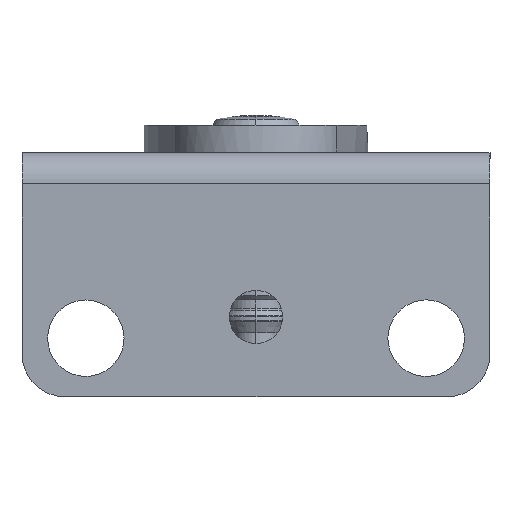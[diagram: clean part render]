
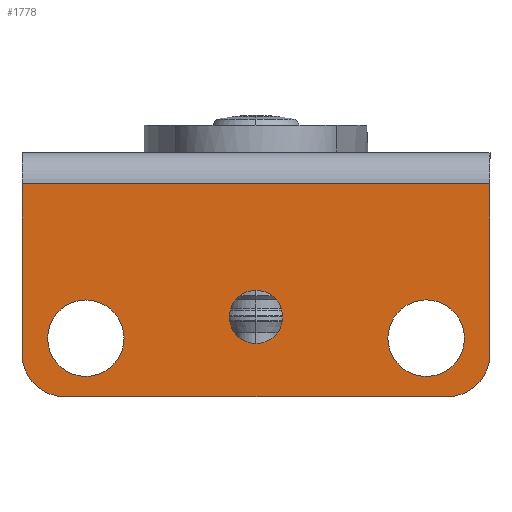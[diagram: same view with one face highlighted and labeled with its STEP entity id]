
A CAD part, front view. The second image highlights one B-rep face of the part: STEP entity #1778.
In plain terms, the highlighted planar face has unit normal (0, -1, 0).
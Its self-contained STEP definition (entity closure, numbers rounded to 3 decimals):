
#110 = CARTESIAN_POINT ( 'NONE',  ( 0., 0., 0. ) ) ;
#111 = DIRECTION ( 'NONE',  ( 0., -1., 0. ) ) ;
#112 = DIRECTION ( 'NONE',  ( 1., 0., 0. ) ) ;
#122 = CARTESIAN_POINT ( 'NONE',  ( -34., 0., -1.5 ) ) ;
#123 = DIRECTION ( 'NONE',  ( 0., 1., 0. ) ) ;
#124 = DIRECTION ( 'NONE',  ( 1., 0., 0. ) ) ;
#450 = DIRECTION ( 'NONE',  ( 0., -1., 0. ) ) ;
#454 = FACE_BOUND ( 'NONE', #861, .T. ) ;
#455 = CARTESIAN_POINT ( 'NONE',  ( -38., 0., -5.5 ) ) ;
#456 = FACE_BOUND ( 'NONE', #808, .T. ) ;
#458 = FACE_BOUND ( 'NONE', #858, .T. ) ;
#459 = FACE_OUTER_BOUND ( 'NONE', #802, .T. ) ;
#460 = PLANE ( 'NONE',  #2564 ) ;
#461 = DIRECTION ( 'NONE',  ( 1., 0., 0. ) ) ;
#605 = VERTEX_POINT ( 'NONE', #2515 ) ;
#608 = VERTEX_POINT ( 'NONE', #2518 ) ;
#612 = VERTEX_POINT ( 'NONE', #2522 ) ;
#613 = VERTEX_POINT ( 'NONE', #2523 ) ;
#615 = VERTEX_POINT ( 'NONE', #2525 ) ;
#618 = VERTEX_POINT ( 'NONE', #2217 ) ;
#635 = VERTEX_POINT ( 'NONE', #2234 ) ;
#636 = VERTEX_POINT ( 'NONE', #2235 ) ;
#646 = VERTEX_POINT ( 'NONE', #2245 ) ;
#652 = VERTEX_POINT ( 'NONE', #2251 ) ;
#670 = VERTEX_POINT ( 'NONE', #2248 ) ;
#802 = EDGE_LOOP ( 'NONE', ( #981, #980, #979, #978, #977, #976 ) ) ;
#808 = EDGE_LOOP ( 'NONE', ( #985, #984 ) ) ;
#858 = EDGE_LOOP ( 'NONE', ( #983, #982 ) ) ;
#861 = EDGE_LOOP ( 'NONE', ( #987, #986 ) ) ;
#946 = VERTEX_POINT ( 'NONE', #2259 ) ;
#976 = ORIENTED_EDGE ( 'NONE', *, *, #1687, .F. ) ;
#977 = ORIENTED_EDGE ( 'NONE', *, *, #1684, .T. ) ;
#978 = ORIENTED_EDGE ( 'NONE', *, *, #1930, .F. ) ;
#979 = ORIENTED_EDGE ( 'NONE', *, *, #1678, .F. ) ;
#980 = ORIENTED_EDGE ( 'NONE', *, *, #1666, .T. ) ;
#981 = ORIENTED_EDGE ( 'NONE', *, *, #1685, .T. ) ;
#982 = ORIENTED_EDGE ( 'NONE', *, *, #1721, .F. ) ;
#983 = ORIENTED_EDGE ( 'NONE', *, *, #1926, .F. ) ;
#984 = ORIENTED_EDGE ( 'NONE', *, *, #1730, .F. ) ;
#985 = ORIENTED_EDGE ( 'NONE', *, *, #1681, .F. ) ;
#986 = ORIENTED_EDGE ( 'NONE', *, *, #1701, .F. ) ;
#987 = ORIENTED_EDGE ( 'NONE', *, *, #1686, .F. ) ;
#1181 = CARTESIAN_POINT ( 'NONE',  ( 0., 0., 0. ) ) ;
#1182 = DIRECTION ( 'NONE',  ( 0., -1., 0. ) ) ;
#1183 = DIRECTION ( 'NONE',  ( 1., 0., 0. ) ) ;
#1207 = CARTESIAN_POINT ( 'NONE',  ( -16., 0., 2. ) ) ;
#1208 = DIRECTION ( 'NONE',  ( 0., -1., 0. ) ) ;
#1209 = DIRECTION ( 'NONE',  ( 1., 0., 0. ) ) ;
#1666 = EDGE_CURVE ( 'NONE', #635, #652, #2122, .T. ) ;
#1678 = EDGE_CURVE ( 'NONE', #636, #652, #2164, .T. ) ;
#1681 = EDGE_CURVE ( 'NONE', #612, #613, #2739, .T. ) ;
#1684 = EDGE_CURVE ( 'NONE', #670, #946, #2181, .T. ) ;
#1685 = EDGE_CURVE ( 'NONE', #646, #635, #2294, .T. ) ;
#1686 = EDGE_CURVE ( 'NONE', #608, #605, #2743, .T. ) ;
#1687 = EDGE_CURVE ( 'NONE', #646, #946, #2683, .T. ) ;
#1701 = EDGE_CURVE ( 'NONE', #605, #608, #2737, .T. ) ;
#1721 = EDGE_CURVE ( 'NONE', #615, #618, #2658, .T. ) ;
#1730 = EDGE_CURVE ( 'NONE', #613, #612, #2640, .T. ) ;
#1778 = ADVANCED_FACE ( 'NONE', ( #454, #456, #458, #459 ), #460, .T. ) ;
#1926 = EDGE_CURVE ( 'NONE', #618, #615, #2002, .T. ) ;
#1930 = EDGE_CURVE ( 'NONE', #670, #636, #1997, .T. ) ;
#1994 = AXIS2_PLACEMENT_3D ( 'NONE', #122, #123, #124 ) ;
#1997 = CIRCLE ( 'NONE', #1994, 4. ) ;
#2000 = AXIS2_PLACEMENT_3D ( 'NONE', #110, #111, #112 ) ;
#2002 = CIRCLE ( 'NONE', #2000, 3.6 ) ;
#2122 = LINE ( 'NONE', #2135, #2721 ) ;
#2135 = CARTESIAN_POINT ( 'NONE',  ( 6., 0., 14.5 ) ) ;
#2136 = DIRECTION ( 'NONE',  ( -1., 0., 0. ) ) ;
#2157 = CARTESIAN_POINT ( 'NONE',  ( -38., 0., -5.5 ) ) ;
#2164 = LINE ( 'NONE', #2157, #2738 ) ;
#2170 = DIRECTION ( 'NONE',  ( 0., 0., 1. ) ) ;
#2178 = CARTESIAN_POINT ( 'NONE',  ( -16., 0., 2. ) ) ;
#2179 = DIRECTION ( 'NONE',  ( 0., -1., 0. ) ) ;
#2180 = DIRECTION ( 'NONE',  ( 1., 0., 0. ) ) ;
#2181 = LINE ( 'NONE', #2292, #2732 ) ;
#2217 = CARTESIAN_POINT ( 'NONE',  ( 3.6, 0., 0. ) ) ;
#2234 = CARTESIAN_POINT ( 'NONE',  ( 6., 0., 14.5 ) ) ;
#2235 = CARTESIAN_POINT ( 'NONE',  ( -38., 0., -1.5 ) ) ;
#2245 = CARTESIAN_POINT ( 'NONE',  ( 6., 0., -1.5 ) ) ;
#2248 = CARTESIAN_POINT ( 'NONE',  ( -34., 0., -5.5 ) ) ;
#2251 = CARTESIAN_POINT ( 'NONE',  ( -38., 0., 14.5 ) ) ;
#2259 = CARTESIAN_POINT ( 'NONE',  ( 2., 0., -5.5 ) ) ;
#2292 = CARTESIAN_POINT ( 'NONE',  ( -38., 0., -5.5 ) ) ;
#2293 = DIRECTION ( 'NONE',  ( 1., 0., 0. ) ) ;
#2294 = LINE ( 'NONE', #2295, #2726 ) ;
#2295 = CARTESIAN_POINT ( 'NONE',  ( 6., 0., -5.5 ) ) ;
#2296 = DIRECTION ( 'NONE',  ( 0., 0., 1. ) ) ;
#2297 = CARTESIAN_POINT ( 'NONE',  ( -32., 0., 0. ) ) ;
#2298 = DIRECTION ( 'NONE',  ( 0., -1., 0. ) ) ;
#2299 = DIRECTION ( 'NONE',  ( 1., 0., 0. ) ) ;
#2300 = CARTESIAN_POINT ( 'NONE',  ( 2., 0., -1.5 ) ) ;
#2301 = DIRECTION ( 'NONE',  ( 0., 1., 0. ) ) ;
#2302 = DIRECTION ( 'NONE',  ( 1., 0., 0. ) ) ;
#2355 = CARTESIAN_POINT ( 'NONE',  ( -32., 0., 0. ) ) ;
#2356 = DIRECTION ( 'NONE',  ( 0., -1., 0. ) ) ;
#2357 = DIRECTION ( 'NONE',  ( 1., 0., 0. ) ) ;
#2515 = CARTESIAN_POINT ( 'NONE',  ( -35.591, 0., 0. ) ) ;
#2518 = CARTESIAN_POINT ( 'NONE',  ( -28.409, 0., 0. ) ) ;
#2522 = CARTESIAN_POINT ( 'NONE',  ( -13.5, 0., 2. ) ) ;
#2523 = CARTESIAN_POINT ( 'NONE',  ( -18.5, 0., 2. ) ) ;
#2525 = CARTESIAN_POINT ( 'NONE',  ( -3.6, 0., 0. ) ) ;
#2564 = AXIS2_PLACEMENT_3D ( 'NONE', #455, #450, #461 ) ;
#2640 = CIRCLE ( 'NONE', #2641, 2.5 ) ;
#2641 = AXIS2_PLACEMENT_3D ( 'NONE', #1207, #1208, #1209 ) ;
#2649 = AXIS2_PLACEMENT_3D ( 'NONE', #1181, #1182, #1183 ) ;
#2658 = CIRCLE ( 'NONE', #2649, 3.6 ) ;
#2674 = AXIS2_PLACEMENT_3D ( 'NONE', #2297, #2298, #2299 ) ;
#2683 = CIRCLE ( 'NONE', #2731, 4. ) ;
#2701 = AXIS2_PLACEMENT_3D ( 'NONE', #2355, #2356, #2357 ) ;
#2721 = VECTOR ( 'NONE', #2136, 1000. ) ;
#2726 = VECTOR ( 'NONE', #2296, 1000. ) ;
#2731 = AXIS2_PLACEMENT_3D ( 'NONE', #2300, #2301, #2302 ) ;
#2732 = VECTOR ( 'NONE', #2293, 1000. ) ;
#2737 = CIRCLE ( 'NONE', #2701, 3.591 ) ;
#2738 = VECTOR ( 'NONE', #2170, 1000. ) ;
#2739 = CIRCLE ( 'NONE', #2762, 2.5 ) ;
#2743 = CIRCLE ( 'NONE', #2674, 3.591 ) ;
#2762 = AXIS2_PLACEMENT_3D ( 'NONE', #2178, #2179, #2180 ) ;
